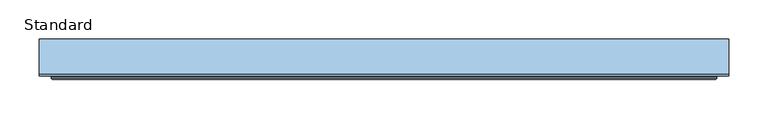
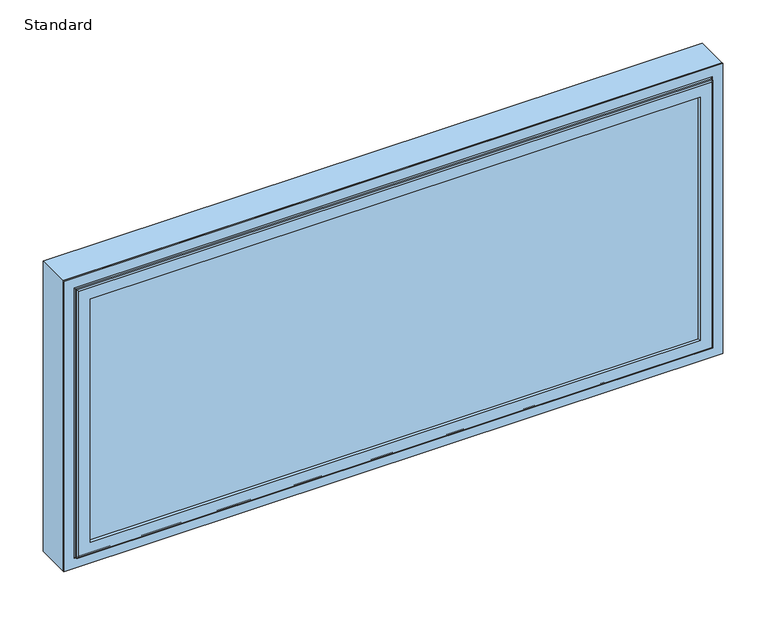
"""IFC4 building model written with IfcOpenShell, lengths in millimetres: window geometry, SMARTS_AlithermHeritage : Standard."""

from ifc_helpers import new_model, si_unit, frame, origin, place, context, project, spatial, polyline, ellipse_curve, outline, extrude, faceted_brep, source, transform, mapped, element, save
from ifc_brep_helpers import plane_surface, cylinder_surface, revolved_surface, advanced_brep


def standard_ae8fd62b(model_context):
    return source(origin(), model_context, "Body", "SolidModel", [
        extrude(outline(polyline([(1020.0, 440.0), (1020.0, -440.0), (610.0, -440.0), (610.0, 440.0), (1020.0, 440.0)]), holes=[polyline([(627.7000182, 422.2999818), (627.7000182, -422.2999818), (1002.2999818, -422.2999818), (1002.2999818, 422.2999818), (627.7000182, 422.2999818)])]), frame((0.0, 50.279857, 0.0), z_axis=(0.0, 1.0, 0.0), x_axis=(0.0, 0.0, 1.0)), (0.0, 0.0, 1.0), 44.9999962),
        advanced_brep(
        [(407.0, 43.2798432, 987.0), (407.0, 47.2798432, 987.0), (407.0, 47.2798432, 643.0), (407.0, 43.2798432, 643.0), (440.0, 50.279857, 1020.0), (440.0, 48.279857, 1020.0), (440.0, 48.279857, 610.0), (440.0, 50.279857, 610.0), (422.4999818, 43.2798432, 1002.4999818), (-422.4999818, 43.2798432, 1002.4999818), (-422.4999818, 43.2798432, 627.5000182), (422.4999818, 43.2798432, 627.5000182), (-407.0, 43.2798432, 643.0), (-407.0, 43.2798432, 987.0), (-440.0, 50.279857, 1020.0), (-440.0, 48.279857, 1020.0), (-440.0, 50.279857, 610.0), (422.2999818, 50.279857, 1002.2999818), (-422.2999818, 50.279857, 1002.2999818), (-422.2999818, 50.279857, 627.7000182), (422.2999818, 50.279857, 627.7000182), (-407.0, 47.2798432, 987.0), (-407.0, 47.2798432, 643.0), (-440.0, 48.279857, 610.0), (-422.2999818, 47.2798432, 1002.2999818), (422.2999818, 47.2798432, 1002.2999818), (422.2999818, 47.2798432, 627.7000182), (424.4999818, 46.779857, 625.5000182), (424.4999818, 45.2798432, 625.5000182), (-424.4999818, 45.2798432, 625.5000182), (-424.4999818, 46.779857, 625.5000182), (424.4999818, 46.779857, 1004.4999818), (424.4999818, 45.2798432, 1004.4999818), (-422.2999818, 47.2798432, 627.7000182), (-424.4999818, 45.2798432, 1004.4999818), (-424.4999818, 46.779857, 1004.4999818), (425.9999818, 48.279857, 1005.9999818), (425.9999818, 48.279857, 624.0000182), (-425.9999818, 48.279857, 624.0000182), (-425.9999818, 48.279857, 1005.9999818)],
        [
            (0, 1),
            (1, 2),
            (2, 3),
            (3, 0),
            (4, 5),
            (5, 6),
            (6, 7),
            (7, 4),
            (8, 9),
            (9, 10),
            (10, 11),
            (11, 8),
            (3, 12),
            (12, 13),
            (13, 0),
            (14, 15),
            (15, 5),
            (4, 14),
            (7, 16),
            (16, 14),
            (17, 18),
            (18, 19),
            (19, 20),
            (20, 17),
            (13, 21),
            (21, 1),
            (2, 22),
            (22, 12),
            (22, 21),
            (6, 23),
            (23, 16),
            (23, 15),
            (24, 18),
            (17, 25),
            (25, 24),
            (20, 26),
            (26, 25),
            (27, 28),
            (28, 29),
            (29, 30),
            (30, 27),
            (31, 32),
            (32, 28),
            (27, 31),
            (19, 33),
            (33, 26),
            (24, 33),
            (29, 34),
            (34, 35),
            (35, 30),
            (34, 32),
            (31, 35),
            (36, 31, ellipse_curve(frame((425.9999818, 46.779857, 1005.9999818), z_axis=(-0.7071067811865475, 0.0, 0.7071067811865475), x_axis=(-0.7071067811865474, 0.0, -0.7071067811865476)), 2.1213203, 1.5)),
            (27, 37, ellipse_curve(frame((425.9999818, 46.779857, 624.0000182), z_axis=(-0.7071067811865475, 0.0, -0.7071067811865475), x_axis=(0.7071067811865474, 0.0, -0.7071067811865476)), 2.1213203, 1.5)),
            (37, 36),
            (30, 38, ellipse_curve(frame((-425.9999818, 46.779857, 624.0000182), z_axis=(-0.7071067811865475, 0.0, 0.7071067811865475), x_axis=(-0.7071067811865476, 0.0, -0.7071067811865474)), 2.1213203, 1.5)),
            (38, 37),
            (35, 39, ellipse_curve(frame((-425.9999818, 46.779857, 1005.9999818), z_axis=(0.7071067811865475, 0.0, 0.7071067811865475), x_axis=(-0.7071067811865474, 0.0, 0.7071067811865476)), 2.1213203, 1.5)),
            (39, 38),
            (36, 39),
            (32, 8, ellipse_curve(frame((422.4999818, 45.2798432, 1002.4999818), z_axis=(0.7071067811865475, 0.0, -0.7071067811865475), x_axis=(0.7071067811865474, 0.0, 0.7071067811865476)), 2.8284271, 2.0)),
            (11, 28, ellipse_curve(frame((422.4999818, 45.2798432, 627.5000182), z_axis=(0.7071067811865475, 0.0, 0.7071067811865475), x_axis=(-0.7071067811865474, 0.0, 0.7071067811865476)), 2.8284271, 2.0)),
            (10, 29, ellipse_curve(frame((-422.4999818, 45.2798432, 627.5000182), z_axis=(0.7071067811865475, 0.0, -0.7071067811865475), x_axis=(0.7071067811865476, 0.0, 0.7071067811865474)), 2.8284271, 2.0)),
            (9, 34, ellipse_curve(frame((-422.4999818, 45.2798432, 1002.4999818), z_axis=(-0.7071067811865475, 0.0, -0.7071067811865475), x_axis=(0.7071067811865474, 0.0, -0.7071067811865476)), 2.8284271, 2.0)),
        ],
        [
            plane_surface(frame((407.0, 47.2798432, 987.0), z_axis=(-1.0, 0.0, 0.0), x_axis=(0.0, 0.0, -1.0))),
            plane_surface(frame((440.0, 48.279857, 1020.0), z_axis=(1.0, 0.0, 0.0), x_axis=(0.0, 0.0, -1.0))),
            plane_surface(frame((-407.0, 43.2798432, 987.0), z_axis=(0.0, -1.0, 0.0), x_axis=(1.0, 0.0, 0.0))),
            plane_surface(frame((-440.0, 48.279857, 1020.0), z_axis=(0.0, 0.0, 1.0), x_axis=(1.0, 0.0, 0.0))),
            plane_surface(frame((-440.0, 50.279857, 1020.0), z_axis=(0.0, 1.0, 0.0), x_axis=(1.0, 0.0, 0.0))),
            plane_surface(frame((-407.0, 47.2798432, 987.0), z_axis=(0.0, 0.0, -1.0), x_axis=(1.0, 0.0, 0.0))),
            plane_surface(frame((407.0, 47.2798432, 643.0), z_axis=(0.0, 0.0, 1.0), x_axis=(-1.0, 0.0, 0.0))),
            plane_surface(frame((-407.0, 47.2798432, 643.0), z_axis=(1.0, 0.0, 0.0), x_axis=(0.0, 0.0, 1.0))),
            plane_surface(frame((440.0, 48.279857, 610.0), z_axis=(0.0, 0.0, -1.0), x_axis=(-1.0, 0.0, 0.0))),
            plane_surface(frame((-440.0, 48.279857, 610.0), z_axis=(-1.0, 0.0, 0.0), x_axis=(0.0, 0.0, 1.0))),
            plane_surface(frame((-422.2999818, 50.279857, 1002.2999818), z_axis=(0.0, 0.0, -1.0), x_axis=(1.0, 0.0, 0.0))),
            plane_surface(frame((422.2999818, 50.279857, 1002.2999818), z_axis=(-1.0, 0.0, 0.0), x_axis=(0.0, 0.0, -1.0))),
            plane_surface(frame((424.4999818, 45.2798432, 625.5000182), z_axis=(0.0, 0.0, -1.0), x_axis=(-1.0, 0.0, 0.0))),
            plane_surface(frame((424.4999818, 45.2798432, 1004.4999818), z_axis=(1.0, 0.0, 0.0), x_axis=(0.0, 0.0, -1.0))),
            plane_surface(frame((422.2999818, 50.279857, 627.7000182), z_axis=(0.0, 0.0, 1.0), x_axis=(-1.0, 0.0, 0.0))),
            plane_surface(frame((-422.2999818, 50.279857, 627.7000182), z_axis=(1.0, 0.0, 0.0), x_axis=(0.0, 0.0, 1.0))),
            plane_surface(frame((-424.4999818, 45.2798432, 625.5000182), z_axis=(-1.0, 0.0, 0.0), x_axis=(0.0, 0.0, 1.0))),
            plane_surface(frame((-422.2999818, 47.2798432, 1002.2999818), z_axis=(0.0, 1.0, 0.0), x_axis=(1.0, 0.0, 0.0))),
            plane_surface(frame((-424.4999818, 45.2798432, 1004.4999818), z_axis=(0.0, 0.0, 1.0), x_axis=(1.0, 0.0, 0.0))),
            revolved_surface(polyline([(424.4999818, 46.779857, 622.5000182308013), (424.4999818, 46.779857, 1007.4999817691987)]), (425.9999818, 46.779857, 1020.0), (0.0, 0.0, -1.0)),
            revolved_surface(polyline([(-427.4999817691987, 46.779857, 625.5000182), (427.49998176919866, 46.779857, 625.5000182)]), (440.0, 46.779857, 624.0000182), (-1.0, 0.0, 0.0)),
            revolved_surface(polyline([(-424.4999818, 46.779857, 1007.4999817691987), (-424.4999818, 46.779857, 622.5000182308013)]), (-425.9999818, 46.779857, 610.0), (0.0, 0.0, 1.0)),
            revolved_surface(polyline([(427.4999817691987, 46.779857, 1004.4999818), (-427.49998176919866, 46.779857, 1004.4999818)]), (-440.0, 46.779857, 1005.9999818), (1.0, 0.0, 0.0)),
            plane_surface(frame((-425.9999818, 48.279857, 1005.9999818), z_axis=(0.0, -1.0, 0.0), x_axis=(1.0, 0.0, 0.0))),
            cylinder_surface(frame((422.4999818, 45.2798432, 1020.0), z_axis=(0.0, 0.0, 1.0), x_axis=(-1.0, 0.0, 0.0)), 2.0),
            cylinder_surface(frame((440.0, 45.2798432, 627.5000182), z_axis=(1.0, 0.0, 0.0), x_axis=(0.0, 0.0, 1.0)), 2.0),
            cylinder_surface(frame((-422.4999818, 45.2798432, 610.0), z_axis=(0.0, 0.0, -1.0), x_axis=(1.0, 0.0, 0.0)), 2.0),
            cylinder_surface(frame((-440.0, 45.2798432, 1002.4999818), z_axis=(-1.0, 0.0, 0.0), x_axis=(0.0, 0.0, -1.0)), 2.0),
        ],
        [
            (0, [[1, 2, 3, 4]]),
            (1, [[5, 6, 7, 8]]),
            (2, [[9, 10, 11, 12], [13, 14, 15, -4]]),
            (3, [[16, 17, -5, 18]]),
            (4, [[19, 20, -18, -8], [21, 22, 23, 24]]),
            (5, [[25, 26, -1, -15]]),
            (6, [[-3, 27, 28, -13]]),
            (7, [[-28, 29, -25, -14]]),
            (8, [[-7, 30, 31, -19]]),
            (9, [[-31, 32, -16, -20]]),
            (10, [[33, -21, 34, 35]]),
            (11, [[-34, -24, 36, 37]]),
            (12, [[38, 39, 40, 41]]),
            (13, [[42, 43, -38, 44]]),
            (14, [[-36, -23, 45, 46]]),
            (15, [[-45, -22, -33, 47]]),
            (16, [[-40, 48, 49, 50]]),
            (17, [[-46, -47, -35, -37], [-26, -29, -27, -2]]),
            (18, [[-49, 51, -42, 52]]),
            (19, [[53, -44, 54, 55]]),
            (20, [[-54, -41, 56, 57]]),
            (21, [[-56, -50, 58, 59]]),
            (22, [[-58, -52, -53, 60]]),
            (23, [[-17, -32, -30, -6], [-57, -59, -60, -55]]),
            (24, [[61, -12, 62, -43]]),
            (25, [[-62, -11, 63, -39]]),
            (26, [[-63, -10, 64, -48]]),
            (27, [[-64, -9, -61, -51]]),
        ],
    ),
        extrude(outline(polyline([(-417.0, 75.2798432), (417.0, 75.2798432), (417.0, 71.2798432), (-417.0, 71.2798432), (-417.0, 75.2798432)])), frame((0.0, 0.0, 633.0), z_axis=(0.0, 0.0, 1.0), x_axis=(1.0, 0.0, 0.0)), (0.0, 0.0, 1.0), 364.0),
        extrude(outline(polyline([(-417.0, 55.2798432), (417.0, 55.2798432), (417.0, 51.2798432), (-417.0, 51.2798432), (-417.0, 55.2798432)])), frame((0.0, 0.0, 633.0), z_axis=(0.0, 0.0, 1.0), x_axis=(1.0, 0.0, 0.0)), (0.0, 0.0, 1.0), 364.0),
        extrude(outline(polyline([(997.0, -417.0), (633.0, -417.0), (633.0, 417.0), (997.0, 417.0), (997.0, -417.0)]), holes=[polyline([(987.0, 407.0), (643.0, 407.0), (643.0, -407.0), (987.0, -407.0), (987.0, 407.0)])]), frame((0.0, 55.2798432, 0.0), z_axis=(0.0, 1.0, 0.0), x_axis=(0.0, 0.0, 1.0)), (0.0, 0.0, 1.0), 16.0),
        faceted_brep([(416.8148849, 95.2798432, 996.8148849), (407.0, 78.2798098, 987.0), (-407.0, 78.2798098, 987.0), (-416.8148849, 95.2798432, 996.8148849), (422.3702676, 78.2798098, 1002.3702676), (422.3702676, 95.2798432, 1002.3702676), (-422.3702676, 95.2798432, 1002.3702676), (-422.3702676, 78.2798098, 1002.3702676), (-422.3702676, 78.2798098, 627.6297324), (-422.3702676, 95.2798432, 627.6297324), (422.3702676, 95.2798432, 627.6297324), (422.3702676, 78.2798098, 627.6297324), (-416.8148849, 95.2798432, 633.1851151), (416.8148849, 95.2798432, 633.1851151), (407.0, 78.2798098, 643.0), (-407.0, 78.2798098, 643.0)], [[[0, 1, 2, 3]], [[4, 5, 6, 7]], [[8, 9, 10, 11]], [[5, 10, 9, 6], [3, 12, 13, 0]], [[7, 8, 11, 4], [1, 14, 15, 2]], [[3, 2, 15, 12]], [[7, 6, 9, 8]], [[12, 15, 14, 13]], [[13, 14, 1, 0]], [[11, 10, 5, 4]]]),
    ])


if __name__ == "__main__":
    model = new_model("IFC4")
    model_context = context("Model", 3, world=origin())
    ifc_project = project(units=[si_unit("LENGTHUNIT", "METRE", prefix="MILLI")], contexts=[model_context])
    site = spatial("IfcSite", under=ifc_project)
    building = spatial("IfcBuilding", under=site)
    placement = place(None, origin())
    standard_shape = standard_ae8fd62b(model_context)
    element("IfcWindow", 1, ObjectType="SMARTS_AlithermHeritage : Standard", at=placement, inside=building, context=model_context, shape_type="MappedRepresentation", body=[
        mapped(standard_shape, transform((0.0, 0.0, 0.0), x_axis=(1.0, 0.0, 0.0), y_axis=(0.0, 1.0, 0.0), z_axis=(0.0, 0.0, 1.0))),
    ])
    save(model, "model.ifc")
